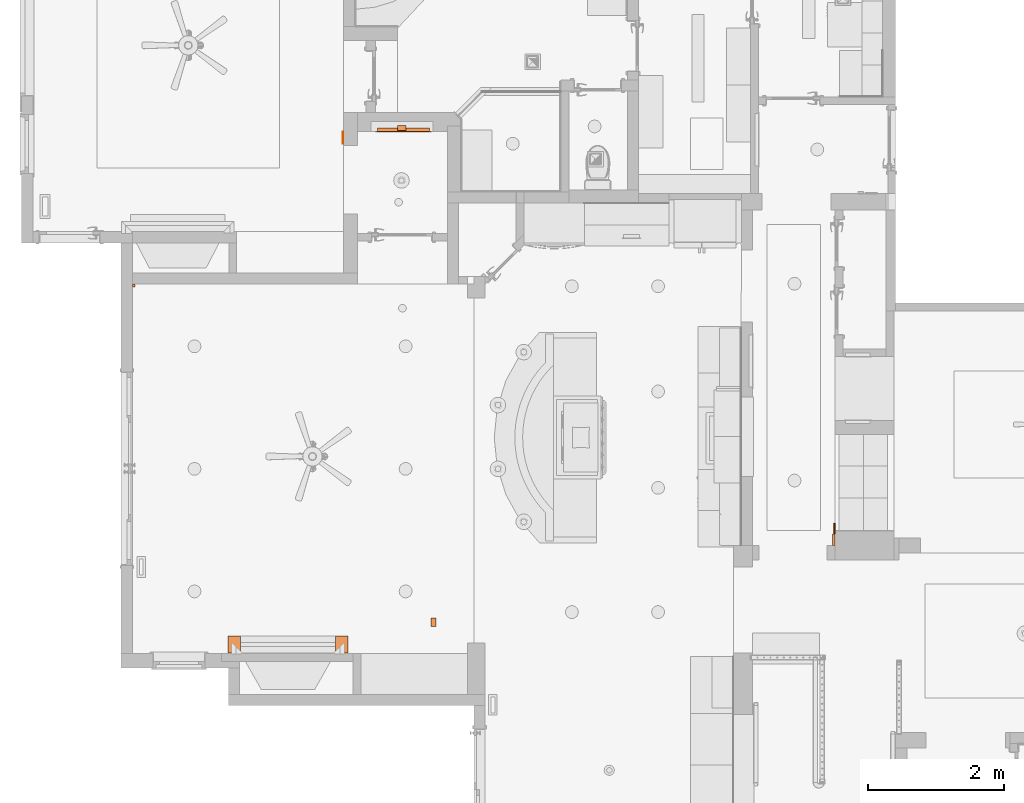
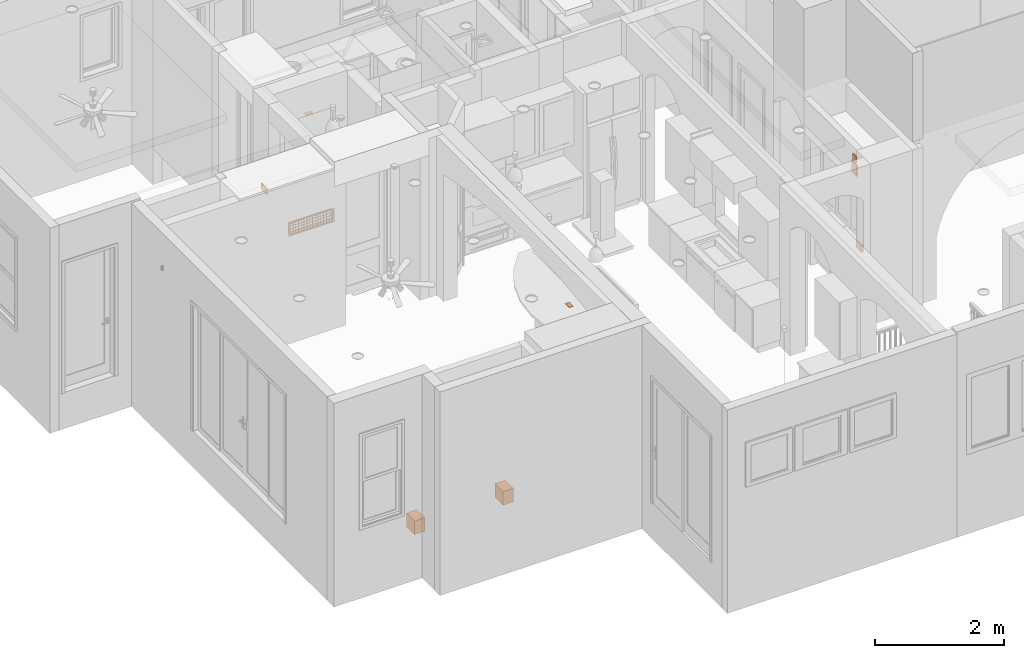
# One storey, part 73 of 77: 10 proxies.
"""IFC2X3 building model written with IfcOpenShell, lengths in inches."""

from ifc_helpers import new_model, entity, si_unit, converted_unit, derived_unit, money_unit, direction, frame, origin_with_axes, place, context, subcontext, project, spatial, open_shell, faceted_brep, surface_model, material, type_object, element, save


model = new_model("IFC2X3")

# Units and contexts
model_context = context("Model", 3, precision=0.000393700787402, world=origin_with_axes(), true_north=direction((0.0, 1.0)))
body_context = subcontext(model_context, "Body", "Model", "MODEL_VIEW")
ifc_project = project(units=[converted_unit("LENGTHUNIT", "INCH", entity("IfcPositiveLengthMeasure", 0.0254), si_unit("LENGTHUNIT", "METRE"), dimensions=[1, 0, 0, 0, 0, 0, 0]), converted_unit("AREAUNIT", "SQUARE_FOOT", entity("IfcPositiveLengthMeasure", 0.09290304), si_unit("AREAUNIT", "SQUARE_METRE"), dimensions=[2, 0, 0, 0, 0, 0, 0]), si_unit("PLANEANGLEUNIT", "RADIAN"), si_unit("SOLIDANGLEUNIT", "STERADIAN"), money_unit("USD"), converted_unit("TIMEUNIT", "Year", entity("IfcTimeMeasure", 31556926.0), si_unit("TIMEUNIT", "SECOND"), dimensions=[0, 0, 1, 0, 0, 0, 0]), si_unit("MASSUNIT", "GRAM", prefix="KILO"), si_unit("THERMODYNAMICTEMPERATUREUNIT", "DEGREE_CELSIUS"), si_unit("LUMINOUSINTENSITYUNIT", "LUMEN"), si_unit("ENERGYUNIT", "JOULE", prefix="MEGA"), derived_unit("THERMALCONDUCTANCEUNIT", [(si_unit("POWERUNIT", "WATT"), 1), (si_unit("LENGTHUNIT", "METRE"), -1), (si_unit("THERMODYNAMICTEMPERATUREUNIT", "KELVIN"), -1)]), derived_unit("SPECIFICHEATCAPACITYUNIT", [(si_unit("ENERGYUNIT", "JOULE"), 1), (si_unit("MASSUNIT", "GRAM", prefix="KILO"), -1), (si_unit("THERMODYNAMICTEMPERATUREUNIT", "KELVIN"), -1)]), derived_unit("MASSDENSITYUNIT", [(si_unit("MASSUNIT", "GRAM", prefix="KILO"), 1), (si_unit("VOLUMEUNIT", "CUBIC_METRE"), -1)])], contexts=[model_context])

# Site, building, storey
site_placement = place(None, origin_with_axes())
site = spatial("IfcSite", under=ifc_project, at=site_placement, Name="Site", CompositionType="ELEMENT")
building_placement = place(site_placement, origin_with_axes())
building = spatial("IfcBuilding", under=site, at=building_placement, Name="Building", CompositionType="ELEMENT")
storey_placement = place(building_placement, frame((0.0, 0.0, 127.952755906), z_axis=(0.0, 0.0, 1.0), x_axis=(1.0, 0.0, 0.0)))
storey = spatial("IfcBuildingStorey", under=building, at=storey_placement, Name="Second Floor", CompositionType="ELEMENT", Elevation=127.953)

# Proxies
ifc_material = material(Name="Generic - Structural")
building_element_proxy_type_1 = type_object("IfcBuildingElementProxyType", Name="Generic - Structural", PredefinedType="NOTDEFINED")
proxy_1_placement = place(storey_placement, frame((1638.21998517, 453.417301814, 93.7007874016), z_axis=(0.0, 0.0, 1.0), x_axis=(1.0, 0.0, 0.0)))
element("IfcBuildingElementProxy", 1, at=proxy_1_placement, inside=storey, type_object=building_element_proxy_type_1, material=ifc_material, Name="MORPH-014", context=body_context, shape_type="Brep", body=[
    faceted_brep([(-1200.0, 0.0, 0.25), (-1200.0, -2.95236704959, 0.25), (-1195.06781366, -2.95236704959, 0.25), (-1195.06781366, 0.0, 0.25), (-1200.0, 0.0, 0.0), (-1200.0, -2.95236704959, 0.0), (-1195.06781366, -2.95236704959, 0.0), (-1195.06781366, 0.0, 0.0)], [[[0, 1, 2, 3]], [[4, 5, 1, 0]], [[1, 5, 2]], [[2, 6, 3]], [[7, 4, 0, 3]], [[5, 4, 7, 6]], [[5, 6, 2]], [[6, 7, 3]]]),
])
proxy_2_placement = place(storey_placement, frame((1606.73964339, 442.93842231, 50.5905511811), z_axis=(0.0, 0.0, 1.0), x_axis=(1.0, 0.0, 0.0)))
element("IfcBuildingElementProxy", 2, at=proxy_2_placement, inside=storey, type_object=building_element_proxy_type_1, material=ifc_material, Name="MORPH-015", context=body_context, shape_type="Brep", body=[
    faceted_brep([(-1200.4999554, -0.092375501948, 0.0), (-1200.4999554, -0.092375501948, 4.93612939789), (-1200.4999554, 6.99332181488, 4.93612939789), (-1200.4999554, 6.99332181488, 0.0), (-1200.0, -0.0923755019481, 0.0), (-1200.0, -0.0923755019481, 4.93612939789), (-1200.0, 7.0, 4.93610921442), (-1200.0, 7.0, 0.0)], [[[0, 1, 2, 3]], [[1, 0, 4]], [[2, 1, 5]], [[3, 2, 6, 7]], [[0, 3, 7, 4]], [[5, 1, 4]], [[6, 2, 5]], [[5, 4, 7, 6]]]),
])
proxy_3_placement = place(storey_placement, frame((1890.98964355, 216.68842231, 101.57480315), z_axis=(0.0, 0.0, 1.0), x_axis=(1.0, 0.0, 0.0)))
element("IfcBuildingElementProxy", 3, at=proxy_3_placement, inside=storey, type_object=building_element_proxy_type_1, material=ifc_material, Name="MORPH-018", context=body_context, shape_type="Brep", body=[
    faceted_brep([(-1200.0, 0.0, 8.5), (-1200.0, 5.91847199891, 8.5), (-1200.0, 5.91847199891, 0.0429276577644), (-1200.0, 0.0, 0.0429276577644), (-1199.0, 0.0, 8.5), (-1199.0, 5.91847199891, 8.5), (-1199.0, 0.0, 0.0429276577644), (-1199.0, 5.91847199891, 0.0429276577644)], [[[0, 1, 2, 3]], [[1, 0, 4, 5]], [[2, 1, 5]], [[6, 3, 2]], [[0, 3, 6, 4]], [[6, 7, 5, 4]], [[5, 7, 2]], [[7, 6, 2]]]),
])
proxy_4_placement = place(storey_placement, frame((1891.23964355, 217.68842231, 111.023622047), z_axis=(0.0, 0.0, 1.0), x_axis=(1.0, 0.0, 0.0)))
element("IfcBuildingElementProxy", 4, at=proxy_4_placement, inside=storey, type_object=building_element_proxy_type_1, material=ifc_material, Name="MORPH-021", context=body_context, shape_type="Brep", body=[
    faceted_brep([(-1200.0219763, 0.0, 5.0), (-1200.0219763, 3.95324409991, 5.0), (-1200.0219763, 3.95324409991, 0.075616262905), (-1199.25, 0.0, 5.0), (-1199.25000016, 3.95324409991, 5.0), (-1200.0219763, 0.0, 0.075616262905), (-1199.25, 0.0, 0.075616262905), (-1199.25000016, 3.95324409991, 0.075616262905)], [[[0, 1, 2]], [[1, 0, 3, 4]], [[2, 1, 4]], [[2, 5, 0]], [[0, 5, 6, 3]], [[7, 4, 3, 6]], [[2, 4, 7]], [[5, 2, 7]], [[6, 5, 7]]]),
])
proxy_5_placement = place(storey_placement, frame((2946.53496429, 919.072692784, 9.97417076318), z_axis=(0.0, 0.0, 1.0), x_axis=(0.943870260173, -0.330316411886, 0.0)))
element("IfcBuildingElementProxy", 5, at=proxy_5_placement, inside=storey, type_object=building_element_proxy_type_1, material=ifc_material, Name="MO-11", context=body_context, shape_type="Brep", body=[
    faceted_brep([(-2146.7835582, -1568.82018301, -9.97167861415), (-2146.78355835, -1568.82018259, 0.275829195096), (-2150.08010828, -1559.40127823, -9.97167861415), (-2139.90527786, -1566.41306265, 0.274553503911), (-2150.08006289, -1559.40126234, 0.275829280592), (-2143.19234691, -1557.02095638, -9.97417076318), (-2139.90518665, -1566.41302998, -9.97417076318), (-2143.19215787, -1557.02089144, 0.274553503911)], [[[0, 1, 2]], [[1, 0, 3]], [[1, 4, 2]], [[0, 2, 5]], [[3, 0, 6]], [[7, 1, 3]], [[4, 1, 7]], [[2, 4, 5]], [[0, 5, 6]], [[3, 6, 5]], [[5, 7, 3]], [[5, 4, 7]]]),
])
proxy_6_placement = place(storey_placement, frame((2884.31852379, 919.072693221, 9.97417076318), z_axis=(0.0, 0.0, 1.0), x_axis=(0.943870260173, -0.330316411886, 0.0)))
element("IfcBuildingElementProxy", 6, at=proxy_6_placement, inside=storey, type_object=building_element_proxy_type_1, material=ifc_material, Name="MO-11", context=body_context, shape_type="Brep", body=[
    faceted_brep([(-2150.06658826, -1559.41648222, -9.97167861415), (-2146.77652663, -1568.81772214, 0.278321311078), (-2150.06658127, -1559.41647951, 0.278321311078), (-2146.77647448, -1568.81770415, -9.97167861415), (-2143.1940673, -1556.99196211, 0.275829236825), (-2139.89795938, -1566.41050183, 0.275829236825), (-2143.19440407, -1556.99156074, -9.97417076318), (-2139.89795936, -1566.41050183, -9.97417076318)], [[[0, 1, 2]], [[3, 1, 0]], [[2, 1, 4]], [[0, 2, 4]], [[1, 3, 5]], [[3, 0, 6]], [[4, 1, 5]], [[0, 4, 6]], [[5, 3, 7]], [[3, 6, 7]], [[6, 4, 5]], [[5, 7, 6]]]),
])
proxy_7_placement = place(storey_placement, frame((1484.3334649, 360.352611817, 86.811023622), z_axis=(0.0, 0.0, 1.0), x_axis=(1.0, 0.0, 0.0)))
element("IfcBuildingElementProxy", 7, at=proxy_7_placement, inside=storey, type_object=building_element_proxy_type_1, material=ifc_material, Name="MO-12", context=body_context, shape_type="Brep", body=[
    faceted_brep([(-1199.99999106, -0.55766718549, 0.0), (-1199.99999106, -0.55766718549, 3.5), (-1200.0, 1.0, 3.5), (-1200.0, 1.0, 0.0), (-1198.44086528, -0.55766718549, 0.0), (-1198.44086528, -0.55766718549, 3.5), (-1198.44110673, 1.00024160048, 3.5), (-1198.44110673, 1.00024160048, 0.0)], [[[0, 1, 2, 3]], [[1, 0, 4]], [[2, 1, 5, 6]], [[3, 2, 6, 7]], [[0, 3, 7, 4]], [[5, 1, 4]], [[5, 4, 6]], [[4, 7, 6]]]),
])
proxy_8_placement = place(storey_placement, frame((1890.48964355, 209.90717231, 49.4094488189), z_axis=(0.0, 0.0, 1.0), x_axis=(1.0, 0.0, 0.0)))
element("IfcBuildingElementProxy", 8, at=proxy_8_placement, inside=storey, type_object=building_element_proxy_type_1, material=ifc_material, Name="MORPH-017", context=body_context, shape_type="Brep", body=[
    faceted_brep([(-1200.05762098, 0.0, 5.0), (-1200.05762098, 6.5, 5.0), (-1200.05762098, 6.5, 0.0845695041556), (-1198.5, 0.0, 5.0), (-1198.5, 6.5, 5.0), (-1198.5, 6.5, 0.0845695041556), (-1200.05762098, 0.0, 0.0845695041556), (-1198.5, 0.0, 0.0845695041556)], [[[0, 1, 2]], [[1, 0, 3, 4]], [[2, 1, 4, 5]], [[0, 2, 6]], [[0, 6, 7, 3]], [[3, 7, 5, 4]], [[2, 5, 7]], [[6, 2, 7]]]),
])
proxy_9_placement = place(storey_placement, frame((1657.49374025, 162.938287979, 118.307086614), z_axis=(0.0, 0.0, 1.0), x_axis=(0.0, 1.0, 0.0)))
element("IfcBuildingElementProxy", 9, at=proxy_9_placement, inside=storey, type_object=building_element_proxy_type_1, material=ifc_material, Name="MORPH-014", context=body_context, shape_type="Brep", body=[
    faceted_brep([(0.0, 1197.0, 0.0), (0.0, 1199.9674161, 0.0), (4.93349211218, 1199.9674161, 0.0), (4.93349211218, 1197.0, 0.0), (0.0, 1197.0, 0.25), (0.0, 1199.9674161, 0.25), (4.93349211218, 1197.0, 0.25), (4.93349211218, 1199.9674161, 0.25)], [[[0, 1, 2, 3]], [[1, 0, 4, 5]], [[2, 1, 5]], [[6, 3, 2]], [[4, 0, 3, 6]], [[5, 4, 6, 7]], [[5, 7, 2]], [[2, 7, 6]]]),
])
building_element_proxy_type_2 = type_object("IfcBuildingElementProxyType", Name="Sidewall Grille 25", PredefinedType="NOTDEFINED")
proxy_10_placement = place(storey_placement, frame((441.630391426, 449.907172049, 13.5826771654), z_axis=(0.0, 0.0, 1.0), x_axis=(1.0, 0.0, 0.0)))
element("IfcBuildingElementProxy", 10, at=proxy_10_placement, inside=storey, type_object=building_element_proxy_type_2, Name="FU - 004", context=body_context, shape_type="SurfaceModel", body=[
    faceted_brep([(16.1486220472, -0.196850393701, -5.1092519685), (-16.1486220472, -0.196850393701, -5.1092519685), (-16.1486220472, 0.0, -5.1092519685), (16.1486220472, 0.0, -5.1092519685), (16.1486220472, -0.196850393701, 5.1092519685), (-16.1486220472, -0.196850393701, 5.1092519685), (15.1643700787, -0.196850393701, -4.125), (-15.1643700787, -0.196850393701, -4.125), (-15.1643700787, -0.196850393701, 4.125), (15.1643700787, -0.196850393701, 4.125), (-16.1486220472, 0.0, 5.1092519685), (16.1486220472, 0.0, 5.1092519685), (15.1643700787, 0.0, -4.125), (15.1643700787, 0.0, 4.125), (-15.1643700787, 0.0, 4.125), (-15.1643700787, 0.0, -4.125)], [[[0, 1, 2, 3]], [[0, 4, 5, 1], [6, 7, 8, 9]], [[1, 5, 10, 2]], [[3, 2, 10, 11], [12, 13, 14, 15]], [[4, 0, 3, 11]], [[5, 4, 11, 10]], [[7, 6, 12, 15]], [[8, 7, 15, 14]], [[9, 8, 14, 13]], [[6, 9, 13, 12]]]),
    surface_model("IfcShellBasedSurfaceModel", [(-15.125, -0.196850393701, -3.93700787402), (15.125, -0.196850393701, -3.93700787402), (15.125, 0.787401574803, -3.93700787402), (-15.125, 0.787401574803, -3.93700787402)], [open_shell([[[0, 1, 2, 3]]])]),
    surface_model("IfcShellBasedSurfaceModel", [(-15.125, -0.196850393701, -1.96850393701), (15.125, -0.196850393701, -1.96850393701), (15.125, 0.787401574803, -1.96850393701), (-15.125, 0.787401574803, -1.96850393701)], [open_shell([[[0, 1, 2, 3]]])]),
    surface_model("IfcShellBasedSurfaceModel", [(-15.125, -0.196850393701, 0.0), (15.125, -0.196850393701, 0.0), (15.125, 0.787401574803, 0.0), (-15.125, 0.787401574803, 0.0)], [open_shell([[[0, 1, 2, 3]]])]),
    surface_model("IfcShellBasedSurfaceModel", [(-15.125, -0.196850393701, 1.96850393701), (15.125, -0.196850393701, 1.96850393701), (15.125, 0.787401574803, 1.96850393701), (-15.125, 0.787401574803, 1.96850393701)], [open_shell([[[0, 1, 2, 3]]])]),
    surface_model("IfcShellBasedSurfaceModel", [(-15.125, -0.196850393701, 3.93700787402), (15.125, -0.196850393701, 3.93700787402), (15.125, 0.787401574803, 3.93700787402), (-15.125, 0.787401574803, 3.93700787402)], [open_shell([[[0, 1, 2, 3]]])]),
    surface_model("IfcShellBasedSurfaceModel", [(14.7637795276, -0.196850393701, 4.08562992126), (14.7637795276, -0.196850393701, -4.08562992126), (14.7637795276, 0.787401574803, -4.08562992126), (14.7637795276, 0.787401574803, 4.08562992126)], [open_shell([[[0, 1, 2, 3]]])]),
    surface_model("IfcShellBasedSurfaceModel", [(12.7952755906, -0.196850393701, 4.08562992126), (12.7952755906, -0.196850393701, -4.08562992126), (12.7952755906, 0.787401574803, -4.08562992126), (12.7952755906, 0.787401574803, 4.08562992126)], [open_shell([[[0, 1, 2, 3]]])]),
    surface_model("IfcShellBasedSurfaceModel", [(10.8267716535, -0.196850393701, 4.08562992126), (10.8267716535, -0.196850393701, -4.08562992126), (10.8267716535, 0.787401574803, -4.08562992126), (10.8267716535, 0.787401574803, 4.08562992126)], [open_shell([[[0, 1, 2, 3]]])]),
    surface_model("IfcShellBasedSurfaceModel", [(8.85826771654, -0.196850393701, 4.08562992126), (8.85826771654, -0.196850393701, -4.08562992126), (8.85826771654, 0.787401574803, -4.08562992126), (8.85826771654, 0.787401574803, 4.08562992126)], [open_shell([[[0, 1, 2, 3]]])]),
    surface_model("IfcShellBasedSurfaceModel", [(6.88976377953, -0.196850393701, 4.08562992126), (6.88976377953, -0.196850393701, -4.08562992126), (6.88976377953, 0.787401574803, -4.08562992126), (6.88976377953, 0.787401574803, 4.08562992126)], [open_shell([[[0, 1, 2, 3]]])]),
    surface_model("IfcShellBasedSurfaceModel", [(4.92125984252, -0.196850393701, 4.08562992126), (4.92125984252, -0.196850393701, -4.08562992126), (4.92125984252, 0.787401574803, -4.08562992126), (4.92125984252, 0.787401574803, 4.08562992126)], [open_shell([[[0, 1, 2, 3]]])]),
    surface_model("IfcShellBasedSurfaceModel", [(2.95275590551, -0.196850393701, 4.08562992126), (2.95275590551, -0.196850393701, -4.08562992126), (2.95275590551, 0.787401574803, -4.08562992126), (2.95275590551, 0.787401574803, 4.08562992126)], [open_shell([[[0, 1, 2, 3]]])]),
    surface_model("IfcShellBasedSurfaceModel", [(0.984251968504, -0.196850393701, 4.08562992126), (0.984251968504, -0.196850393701, -4.08562992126), (0.984251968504, 0.787401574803, -4.08562992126), (0.984251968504, 0.787401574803, 4.08562992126)], [open_shell([[[0, 1, 2, 3]]])]),
    surface_model("IfcShellBasedSurfaceModel", [(-0.984251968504, -0.196850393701, 4.08562992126), (-0.984251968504, -0.196850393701, -4.08562992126), (-0.984251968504, 0.787401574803, -4.08562992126), (-0.984251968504, 0.787401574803, 4.08562992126)], [open_shell([[[0, 1, 2, 3]]])]),
    surface_model("IfcShellBasedSurfaceModel", [(-2.95275590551, -0.196850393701, 4.08562992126), (-2.95275590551, -0.196850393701, -4.08562992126), (-2.95275590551, 0.787401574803, -4.08562992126), (-2.95275590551, 0.787401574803, 4.08562992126)], [open_shell([[[0, 1, 2, 3]]])]),
    surface_model("IfcShellBasedSurfaceModel", [(-4.92125984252, -0.196850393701, 4.08562992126), (-4.92125984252, -0.196850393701, -4.08562992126), (-4.92125984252, 0.787401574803, -4.08562992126), (-4.92125984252, 0.787401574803, 4.08562992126)], [open_shell([[[0, 1, 2, 3]]])]),
    surface_model("IfcShellBasedSurfaceModel", [(-6.88976377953, -0.196850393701, 4.08562992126), (-6.88976377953, -0.196850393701, -4.08562992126), (-6.88976377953, 0.787401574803, -4.08562992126), (-6.88976377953, 0.787401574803, 4.08562992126)], [open_shell([[[0, 1, 2, 3]]])]),
    surface_model("IfcShellBasedSurfaceModel", [(-8.85826771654, -0.196850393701, 4.08562992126), (-8.85826771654, -0.196850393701, -4.08562992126), (-8.85826771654, 0.787401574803, -4.08562992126), (-8.85826771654, 0.787401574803, 4.08562992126)], [open_shell([[[0, 1, 2, 3]]])]),
    surface_model("IfcShellBasedSurfaceModel", [(-10.8267716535, -0.196850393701, 4.08562992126), (-10.8267716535, -0.196850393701, -4.08562992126), (-10.8267716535, 0.787401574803, -4.08562992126), (-10.8267716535, 0.787401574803, 4.08562992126)], [open_shell([[[0, 1, 2, 3]]])]),
    surface_model("IfcShellBasedSurfaceModel", [(-12.7952755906, -0.196850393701, 4.08562992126), (-12.7952755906, -0.196850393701, -4.08562992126), (-12.7952755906, 0.787401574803, -4.08562992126), (-12.7952755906, 0.787401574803, 4.08562992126)], [open_shell([[[0, 1, 2, 3]]])]),
    surface_model("IfcShellBasedSurfaceModel", [(-14.7637795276, -0.196850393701, 4.08562992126), (-14.7637795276, -0.196850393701, -4.08562992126), (-14.7637795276, 0.787401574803, -4.08562992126), (-14.7637795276, 0.787401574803, 4.08562992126)], [open_shell([[[0, 1, 2, 3]]])]),
    surface_model("IfcShellBasedSurfaceModel", [(-15.1643700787, 0.0, -4.125), (-15.1643700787, 0.0, 4.125), (-15.1643700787, 1.96850393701, 4.125), (-15.1643700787, 1.96850393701, -4.125), (15.1643700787, 0.0, 4.125), (15.1643700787, 1.96850393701, 4.125), (15.1643700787, 0.0, -4.125), (15.1643700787, 1.96850393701, -4.125)], [open_shell([[[0, 1, 2, 3]], [[1, 4, 5, 2]], [[6, 0, 3, 7]], [[4, 6, 7, 5]]])]),
])

save(model, "model.ifc")
